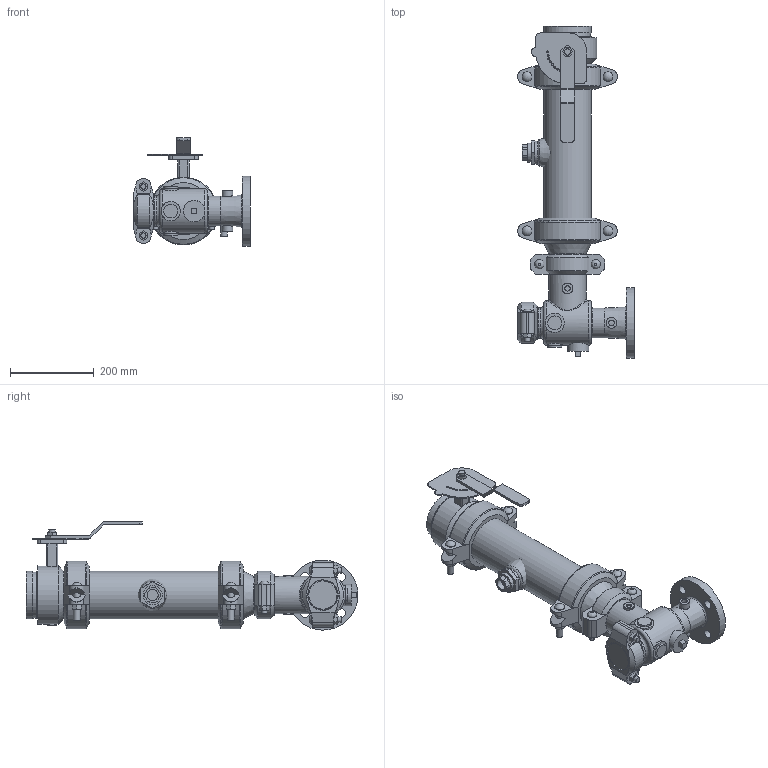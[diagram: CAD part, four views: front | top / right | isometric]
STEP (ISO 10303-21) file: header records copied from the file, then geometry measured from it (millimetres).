
FILE_DESCRIPTION(/* description */ ('VIC SVI PUMP DROP HORZ S/391 (OGSxFLG)','CAx-IF Rec.Pracs.---Representation and Presentation of Product Manufacturing Information (PMI)---4.0---2014-10-13'),/* implementation_level */ '2;1');
FILE_NAME(/* name */ 'C:\Users\kkamble\AppData\Roaming\Autodesk\ApplicationPlugins\Back Up\Victaulic_PN10_Series 391 (OGSxFLG)\Victaulic_PN10_Series 391 (OGSxFLG)_04.0x02.0 (100x50).stp',/* time_stamp */ '2020-11-26T23:43:27+05:00',/* author */ ('kkamble'),/* organization */ ('Victaulic'),/* preprocessor_version */ 'ST-DEVELOPER v17.2',/* originating_system */ 'Autodesk Inventor 2019',/* authorisation */ '');
FILE_SCHEMA (('AP242_MANAGED_MODEL_BASED_3D_ENGINEERING_MIM_LF { 1 0 10303 442 1 1 4 }'));
Length unit declared in the file: inch
Products named in the file (11): 391-04.0x02.0; 731D-03.0x02.0; 731D-03.0x02.0_1; 731D-03.0; 07-02.5; 050-04.0x03.0; 075-03.0; PIPE-04.0; 761-04.0; 177N-04.0; 923-04.0x0.75
Assembly tree (11 placements, depth 3):
  391-04.0x02.0
    731D-03.0x02.0
      731D-03.0x02.0_1
      731D-03.0
      07-02.5
    050-04.0x03.0
    075-03.0
    PIPE-04.0
    177N-04.0  x2
    761-04.0
    923-04.0x0.75
Bounding box: 279.4 x 793.75 x 258.83 mm (x, y, z)
Volume: 5171326.1 mm3; surface area: 1043448.8 mm2
Topology: 10 solids, 15 shells, 597 faces, 1541 edges, 1043 vertices
Faces by surface type: plane 339, cylinder 207, cone 25, torus 17, sphere 6, bspline 3
Full cylindrical faces by diameter (mm): 4.826 x10, 8.636 x4, 12.7 x8, 13.157 x4, 14.605 x2, 14.986 x2, 15.875 x4, 21.006 x4, 22.225 x2, 22.86 x1, 23.495 x4, 25.4 x4, 26.67 x1, 33.02 x3, 45.72 x3, 45.974 x2, 49.022 x1, 50.8 x3, 55.118 x1, 55.626 x1, 57.912 x1, 66.675 x1, 69.088 x2, 71.374 x1, 72.898 x1, 73.025 x5, 77.927 x1, 82.55 x1, 84.938 x2, 88.9 x6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
Entity records: 17701 total; most frequent: CARTESIAN_POINT 3857, DIRECTION 2836, ORIENTED_EDGE 2602, EDGE_CURVE 1301, AXIS2_PLACEMENT_3D 1080, VERTEX_POINT 884, LINE 676, VECTOR 676
